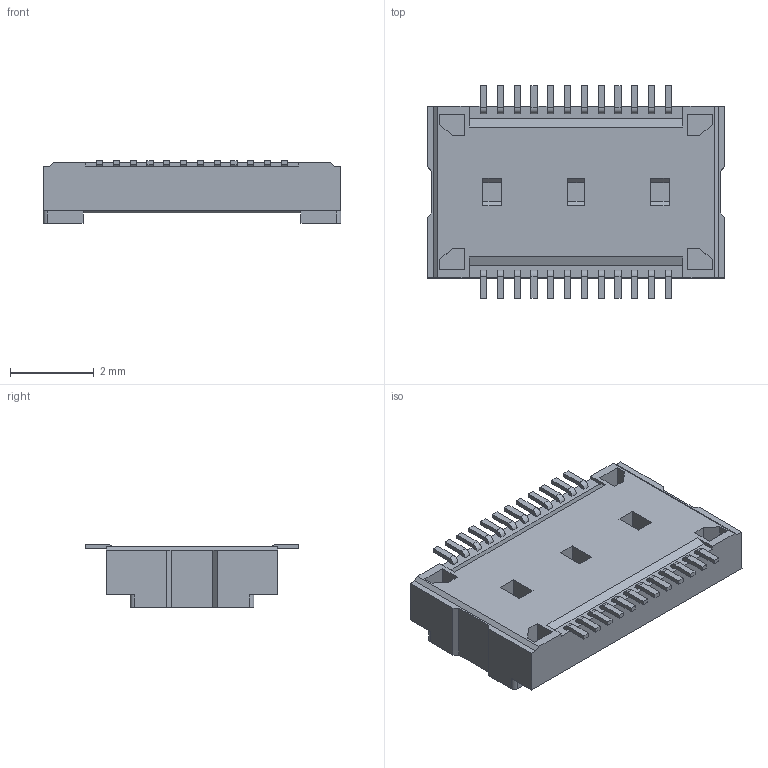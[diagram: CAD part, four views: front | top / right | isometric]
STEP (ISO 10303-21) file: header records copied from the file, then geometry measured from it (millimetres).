
FILE_DESCRIPTION (( 'STEP AP203' ), '1' );
FILE_NAME ('GT-B0405FSV15-24B1101.STEP', '2026-07-23T03:18:13', ( '' ), ( '' ), 'SwSTEP 2.0', 'SolidWorks 2020', '' );
FILE_SCHEMA (( 'CONFIG_CONTROL_DESIGN' ));
Length unit declared in the file: millimetre
Products named in the file (1): GT-B0405FSV15-24B1101
Bounding box: 7.1 x 5.08 x 1.5 mm (x, y, z)
Volume: 24 mm3; surface area: 133.9 mm2
Topology: 1 solids, 1 shells, 905 faces, 2646 edges, 1771 vertices
Faces by surface type: plane 602, cylinder 232, bspline 71
Entity records: 33611 total; most frequent: CARTESIAN_POINT 9471, ORIENTED_EDGE 5292, DIRECTION 4640, EDGE_CURVE 2646, VECTOR 1944, LINE 1944, VERTEX_POINT 1771, AXIS2_PLACEMENT_3D 1348
